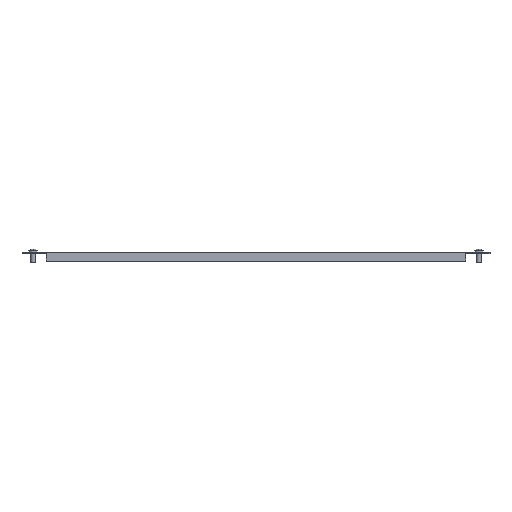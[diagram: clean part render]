
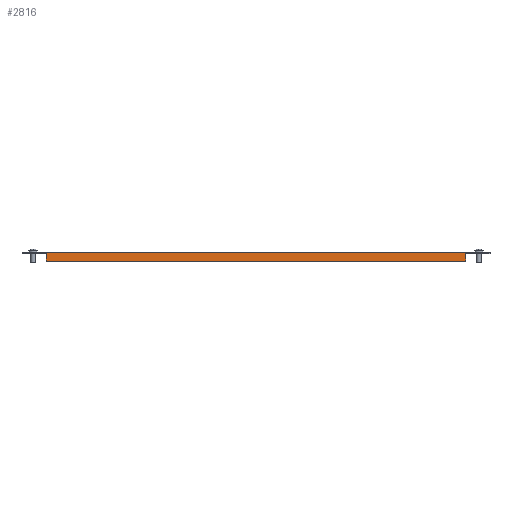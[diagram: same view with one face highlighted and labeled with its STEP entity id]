
A CAD part, front view. The second image highlights one B-rep face of the part: STEP entity #2816.
In plain terms, the highlighted planar face has unit normal (0, -1, 0).
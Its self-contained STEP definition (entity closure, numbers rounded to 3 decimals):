
#3 = DIRECTION ( 'NONE',  ( 0., 0., -1. ) ) ;
#156 = EDGE_CURVE ( 'NONE', #1259, #689, #1715, .T. ) ;
#183 = CARTESIAN_POINT ( 'NONE',  ( -235.5, -99., 0. ) ) ;
#362 = VERTEX_POINT ( 'NONE', #1823 ) ;
#445 = VECTOR ( 'NONE', #804, 1000. ) ;
#477 = EDGE_CURVE ( 'NONE', #689, #1894, #1991, .T. ) ;
#632 = ORIENTED_EDGE ( 'NONE', *, *, #2394, .T. ) ;
#686 = CARTESIAN_POINT ( 'NONE',  ( 0., -99., 0. ) ) ;
#689 = VERTEX_POINT ( 'NONE', #1008 ) ;
#744 = CARTESIAN_POINT ( 'NONE',  ( 235.5, -99., -2.4 ) ) ;
#800 = AXIS2_PLACEMENT_3D ( 'NONE', #686, #2355, #3 ) ;
#804 = DIRECTION ( 'NONE',  ( -1., 0., 0. ) ) ;
#875 = CARTESIAN_POINT ( 'NONE',  ( -235.5, -99., 0. ) ) ;
#879 = VERTEX_POINT ( 'NONE', #183 ) ;
#880 = EDGE_CURVE ( 'NONE', #362, #879, #1627, .T. ) ;
#925 = FACE_OUTER_BOUND ( 'NONE', #2514, .T. ) ;
#1008 = CARTESIAN_POINT ( 'NONE',  ( 235.5, -99., -10. ) ) ;
#1023 = CARTESIAN_POINT ( 'NONE',  ( 235.5, -99., -10. ) ) ;
#1078 = CARTESIAN_POINT ( 'NONE',  ( -235.5, -99., -10. ) ) ;
#1105 = VECTOR ( 'NONE', #1824, 1000. ) ;
#1152 = VECTOR ( 'NONE', #1285, 1000. ) ;
#1191 = PLANE ( 'NONE',  #800 ) ;
#1200 = EDGE_CURVE ( 'NONE', #1894, #362, #1615, .T. ) ;
#1259 = VERTEX_POINT ( 'NONE', #2395 ) ;
#1265 = DIRECTION ( 'NONE',  ( 0., 0., 1. ) ) ;
#1285 = DIRECTION ( 'NONE',  ( 0., 0., -1. ) ) ;
#1299 = LINE ( 'NONE', #2206, #1467 ) ;
#1467 = VECTOR ( 'NONE', #2234, 1000. ) ;
#1615 = LINE ( 'NONE', #2265, #1105 ) ;
#1627 = LINE ( 'NONE', #875, #2325 ) ;
#1687 = LINE ( 'NONE', #744, #2885 ) ;
#1715 = LINE ( 'NONE', #1023, #1152 ) ;
#1823 = CARTESIAN_POINT ( 'NONE',  ( -235.5, -99., -2.4 ) ) ;
#1824 = DIRECTION ( 'NONE',  ( 0., 0., 1. ) ) ;
#1894 = VERTEX_POINT ( 'NONE', #2110 ) ;
#1991 = LINE ( 'NONE', #1078, #445 ) ;
#2026 = ORIENTED_EDGE ( 'NONE', *, *, #880, .F. ) ;
#2110 = CARTESIAN_POINT ( 'NONE',  ( -235.5, -99., -10. ) ) ;
#2148 = VERTEX_POINT ( 'NONE', #2192 ) ;
#2192 = CARTESIAN_POINT ( 'NONE',  ( 235.5, -99., 0. ) ) ;
#2206 = CARTESIAN_POINT ( 'NONE',  ( 0., -99., 0. ) ) ;
#2234 = DIRECTION ( 'NONE',  ( -1., 0., 0. ) ) ;
#2265 = CARTESIAN_POINT ( 'NONE',  ( -235.5, -99., -1.8 ) ) ;
#2325 = VECTOR ( 'NONE', #2791, 1000. ) ;
#2355 = DIRECTION ( 'NONE',  ( 0., -1., 0. ) ) ;
#2394 = EDGE_CURVE ( 'NONE', #1259, #2148, #1687, .T. ) ;
#2395 = CARTESIAN_POINT ( 'NONE',  ( 235.5, -99., -2.4 ) ) ;
#2449 = ORIENTED_EDGE ( 'NONE', *, *, #2940, .T. ) ;
#2514 = EDGE_LOOP ( 'NONE', ( #3021, #632, #2449, #2026, #2997, #2605 ) ) ;
#2605 = ORIENTED_EDGE ( 'NONE', *, *, #477, .F. ) ;
#2791 = DIRECTION ( 'NONE',  ( 0., 0., 1. ) ) ;
#2816 = ADVANCED_FACE ( 'NONE', ( #925 ), #1191, .T. ) ;
#2885 = VECTOR ( 'NONE', #1265, 1000. ) ;
#2940 = EDGE_CURVE ( 'NONE', #2148, #879, #1299, .T. ) ;
#2997 = ORIENTED_EDGE ( 'NONE', *, *, #1200, .F. ) ;
#3021 = ORIENTED_EDGE ( 'NONE', *, *, #156, .F. ) ;
